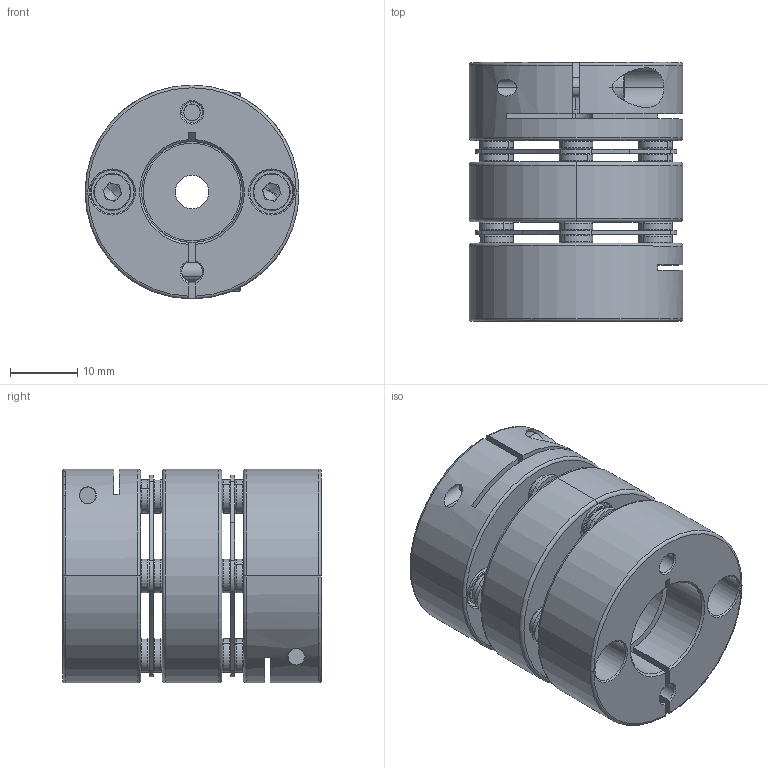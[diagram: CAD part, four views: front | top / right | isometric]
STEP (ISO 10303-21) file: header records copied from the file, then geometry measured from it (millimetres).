
FILE_DESCRIPTION (( 'STEP AP203' ), '1' );
FILE_NAME ('SDWB-31C-5X15_203.STEP', '2013-01-11T06:41:55', ( '' ), ( '' ), 'SwSTEP 2.0', 'SolidWorks 2012', '' );
FILE_SCHEMA (( 'CONFIG_CONTROL_DESIGN' ));
Length unit declared in the file: millimetre
Products named in the file (1): SDWB-31C-5X15_203
Bounding box: 31.8 x 38.5 x 31.8 mm (x, y, z)
Volume: 19741 mm3; surface area: 13846.7 mm2
Topology: 1 solids, 35 shells, 756 faces, 1730 edges, 1034 vertices
Faces by surface type: cylinder 249, plane 223, cone 146, torus 138
Entity records: 21817 total; most frequent: DIRECTION 4146, CARTESIAN_POINT 3975, ORIENTED_EDGE 3420, AXIS2_PLACEMENT_3D 1725, EDGE_CURVE 1710, VERTEX_POINT 1034, CIRCLE 968, EDGE_LOOP 870
